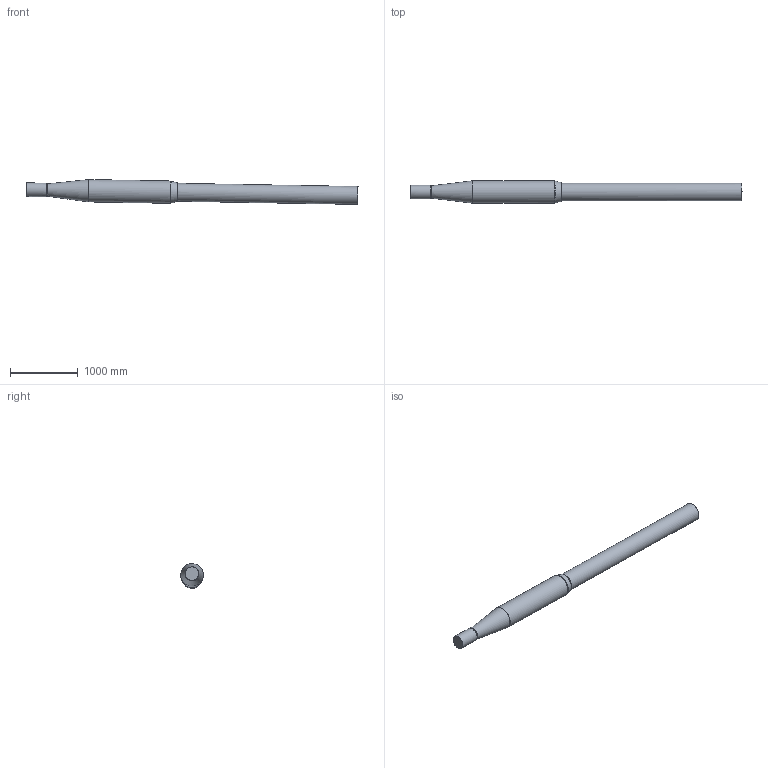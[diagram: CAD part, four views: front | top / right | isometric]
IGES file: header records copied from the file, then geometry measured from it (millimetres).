
Global section: file name: Z:\prj6.0\JFM_2018\outgoing\2022_scanned_data_JFM_0015_w_horn\2022 scans\model in tunnel at 1 deg mod\14x22_sting_in_tunnel_1deg_mod.igs; native system: NX V10.0; preprocessor: SIEMENS PLM Software NX 10.0; date: 20220822.141940; units: millimetre
Bounding box: 4894.1 x 328.8 x 365.59 mm (x, y, z)
Surface area: 4340919.3 mm2 (no closed solid volume)
Topology: 0 solids, 0 shells, 15 faces, 99 edges, 88 vertices
Faces by surface type: bspline 15
